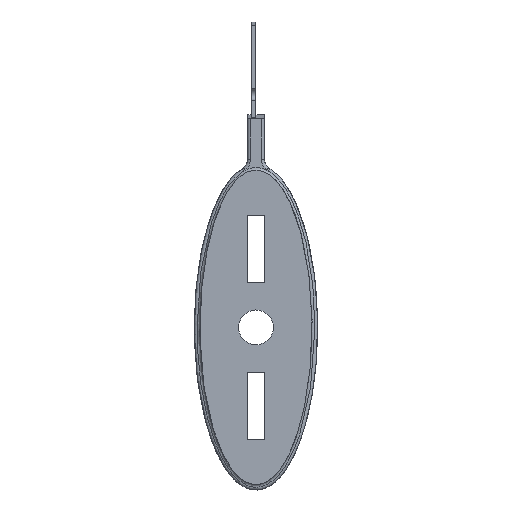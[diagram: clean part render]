
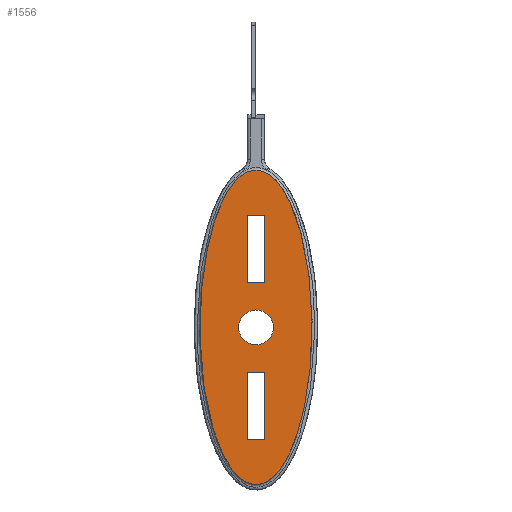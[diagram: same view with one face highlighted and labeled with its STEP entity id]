
A CAD part, front view. The second image highlights one B-rep face of the part: STEP entity #1556.
In plain terms, the highlighted planar face has unit normal (0, -1, 0).
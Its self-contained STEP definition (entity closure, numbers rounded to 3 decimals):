
#13=ELLIPSE($,#1689,14.,5.);
#142=FACE_BOUND($,#385,.T.);
#143=FACE_BOUND($,#386,.T.);
#144=FACE_BOUND($,#387,.T.);
#219=CIRCLE($,#1692,1.55);
#291=FACE_OUTER_BOUND($,#384,.T.);
#384=EDGE_LOOP($,(#1318));
#385=EDGE_LOOP($,(#1319));
#386=EDGE_LOOP($,(#1320,#1321,#1322,#1323));
#387=EDGE_LOOP($,(#1324,#1325,#1326,#1327));
#461=LINE($,#4288,#545);
#463=LINE($,#4293,#547);
#464=LINE($,#4295,#548);
#465=LINE($,#4297,#549);
#466=LINE($,#4298,#550);
#467=LINE($,#4300,#551);
#468=LINE($,#4302,#552);
#469=LINE($,#4303,#553);
#545=VECTOR($,#2019,6.);
#547=VECTOR($,#2023,1.55);
#548=VECTOR($,#2024,6.);
#549=VECTOR($,#2025,1.55);
#550=VECTOR($,#2026,6.);
#551=VECTOR($,#2027,1.55);
#552=VECTOR($,#2028,1.55);
#553=VECTOR($,#2029,6.);
#690=VERTEX_POINT($,#4272);
#692=VERTEX_POINT($,#4279);
#695=VERTEX_POINT($,#4285);
#696=VERTEX_POINT($,#4287);
#697=VERTEX_POINT($,#4291);
#698=VERTEX_POINT($,#4292);
#699=VERTEX_POINT($,#4294);
#700=VERTEX_POINT($,#4296);
#701=VERTEX_POINT($,#4299);
#702=VERTEX_POINT($,#4301);
#901=EDGE_CURVE($,#690,#690,#13,.T.);
#903=EDGE_CURVE($,#692,#692,#219,.T.);
#906=EDGE_CURVE($,#696,#695,#461,.T.);
#908=EDGE_CURVE($,#697,#698,#463,.T.);
#909=EDGE_CURVE($,#698,#699,#464,.T.);
#910=EDGE_CURVE($,#699,#700,#465,.T.);
#911=EDGE_CURVE($,#700,#697,#466,.T.);
#912=EDGE_CURVE($,#701,#696,#467,.T.);
#913=EDGE_CURVE($,#695,#702,#468,.T.);
#914=EDGE_CURVE($,#702,#701,#469,.T.);
#1318=ORIENTED_EDGE($,*,*,#901,.T.);
#1319=ORIENTED_EDGE($,*,*,#903,.T.);
#1320=ORIENTED_EDGE($,*,*,#908,.T.);
#1321=ORIENTED_EDGE($,*,*,#909,.T.);
#1322=ORIENTED_EDGE($,*,*,#910,.T.);
#1323=ORIENTED_EDGE($,*,*,#911,.T.);
#1324=ORIENTED_EDGE($,*,*,#912,.T.);
#1325=ORIENTED_EDGE($,*,*,#906,.T.);
#1326=ORIENTED_EDGE($,*,*,#913,.T.);
#1327=ORIENTED_EDGE($,*,*,#914,.T.);
#1387=PLANE($,#1694);
#1556=ADVANCED_FACE($,(#291,#142,#143,#144),#1387,.T.);
#1689=AXIS2_PLACEMENT_3D($,#4275,#2007,#2008);
#1692=AXIS2_PLACEMENT_3D($,#4280,#2013,#2014);
#1694=AXIS2_PLACEMENT_3D($,#4290,#2021,#2022);
#2007=DIRECTION('center_axis',(0.,-1.,0.));
#2008=DIRECTION('ref_axis',(0.,0.,
-1.));
#2013=DIRECTION('center_axis',(0.,1.,0.));
#2014=DIRECTION('ref_axis',(1.,0.,0.));
#2019=DIRECTION($,(0.,0.,1.));
#2021=DIRECTION('center_axis',(0.,-1.,0.));
#2022=DIRECTION('ref_axis',(0.,0.,-1.));
#2023=DIRECTION($,(1.,0.,0.));
#2024=DIRECTION($,(0.,0.,-1.));
#2025=DIRECTION($,(-1.,0.,0.));
#2026=DIRECTION($,(0.,0.,1.));
#2027=DIRECTION($,(-1.,0.,0.));
#2028=DIRECTION($,(1.,0.,0.));
#2029=DIRECTION($,(0.,0.,-1.));
#4272=CARTESIAN_POINT('',(0.,0.,14.));
#4275=CARTESIAN_POINT('Origin',(0.,0.,0.));
#4279=CARTESIAN_POINT('',(-1.55,0.,0.));
#4280=CARTESIAN_POINT('Origin',(0.,0.,0.));
#4285=CARTESIAN_POINT('',(-0.775,0.,10.));
#4287=CARTESIAN_POINT('',(-0.775,0.,4.));
#4288=CARTESIAN_POINT($,(-0.775,0.,5.));
#4290=CARTESIAN_POINT('Origin',(0.,0.,0.));
#4291=CARTESIAN_POINT('',(-0.775,0.,-4.));
#4292=CARTESIAN_POINT('',(0.775,0.,-4.));
#4293=CARTESIAN_POINT($,(0.,0.,-4.));
#4294=CARTESIAN_POINT('',(0.775,0.,-10.));
#4295=CARTESIAN_POINT($,(0.775,0.,-5.));
#4296=CARTESIAN_POINT('',(-0.775,0.,-10.));
#4297=CARTESIAN_POINT($,(-0.388,0.,-10.));
#4298=CARTESIAN_POINT($,(-0.775,0.,-2.));
#4299=CARTESIAN_POINT('',(0.775,0.,4.));
#4300=CARTESIAN_POINT($,(0.,0.,4.));
#4301=CARTESIAN_POINT('',(0.775,0.,10.));
#4302=CARTESIAN_POINT($,(0.388,0.,10.));
#4303=CARTESIAN_POINT($,(0.775,0.,2.));
